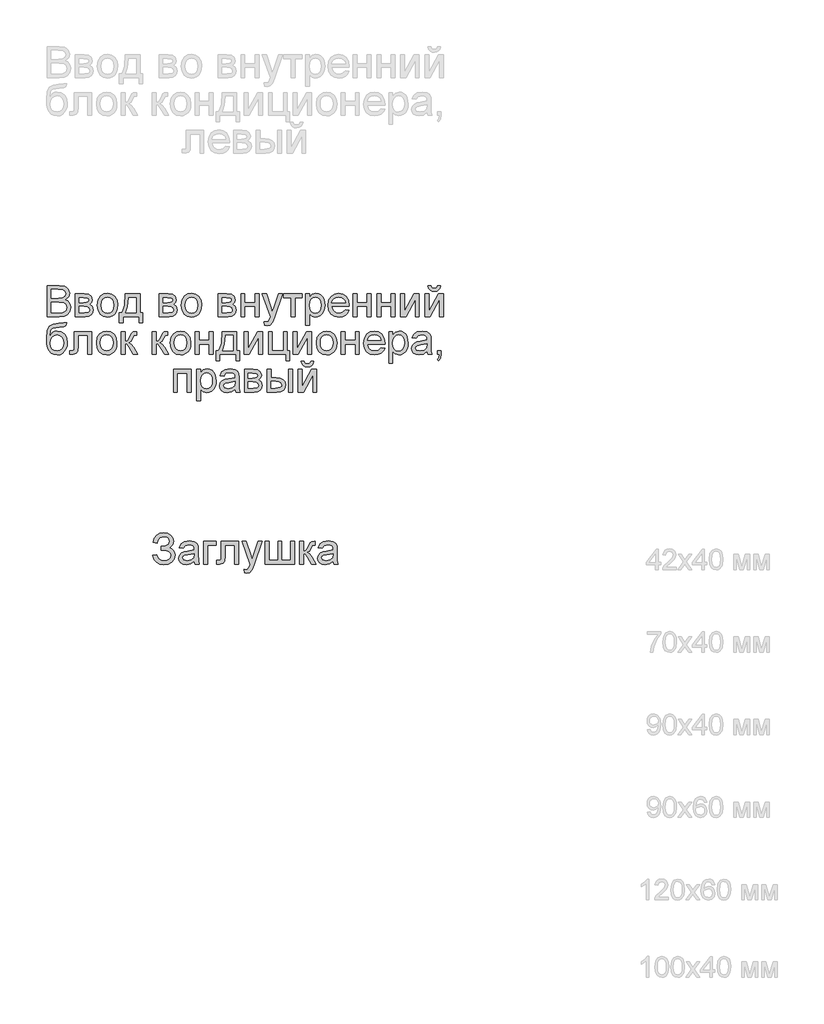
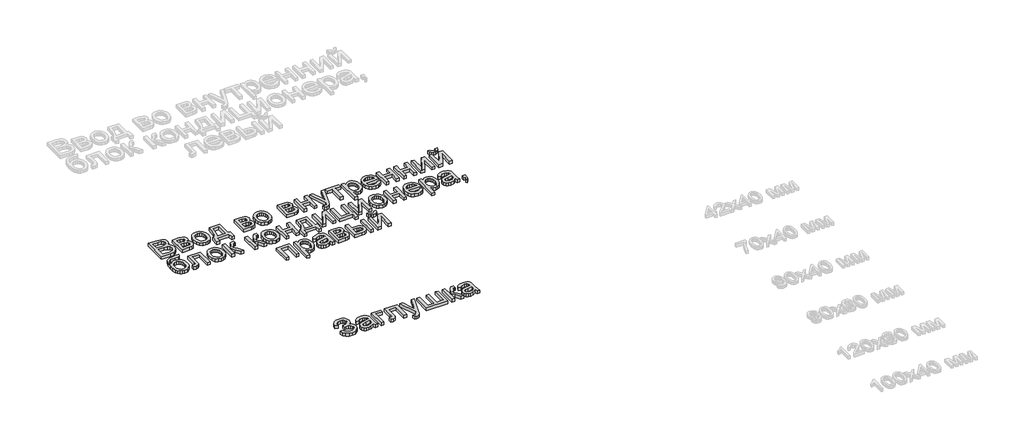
# One storey, part 14 of 21: 2 proxies.
"""IFC4 building model written with IfcOpenShell, lengths in millimetres."""

from ifc_helpers import new_model, si_unit, origin, origin_with_axes, place, context, project, spatial, polyline, outline, extrude, element, save

model = new_model("IFC4")

# Units and contexts
model_context = context("Model", 3, world=origin())
ifc_project = project(units=[si_unit("LENGTHUNIT", "METRE", prefix="MILLI")], contexts=[model_context])

# Site, building, storey
site = spatial("IfcSite", under=ifc_project)
building = spatial("IfcBuilding", under=site)
storey = spatial("IfcBuildingStorey", under=building, Name="Этаж 01", Elevation=0.0)

# Proxies
placement = place(None, origin())
element("IfcBuildingElementProxy", 1, Name="150 мм Arial", ObjectType="150 мм Arial", at=placement, inside=storey, context=model_context, shape_type="SweptSolid", body=[
    extrude(outline(polyline([(28914.2604069, -8843.2662232), (28914.2604069, -8692.581758), (28971.7603627, -8692.581758), (28999.9217294, -8697.014736), (29009.3854938, -8702.638732), (29016.5499956, -8710.644764), (29022.5648662, -8729.9217805), (29017.5064888, -8747.524934), (29002.2209919, -8760.8606563), (29012.8941683, -8766.4340685), (29020.7806386, -8774.9137485), (29025.6504765, -8785.7386762), (29027.2737558, -8798.3478316), (29022.8407777, -8818.5997354), (29011.8595002, -8833.0207096), (28995.4703573, -8840.6726551), (28971.3189043, -8843.2662232), (28914.2604069, -8843.2662232)]), holes=[polyline([(28933.095965, -8753.797322), (28967.4929316, -8753.797322), (28987.5792885, -8752.1786412), (28999.664212, -8745.2072774), (29003.7293081, -8732.9384129), (28999.9401235, -8720.6511542), (28989.0876047, -8713.3854848), (28964.8809694, -8711.4173161), (28933.095965, -8711.4173161), (28933.095965, -8753.797322)]), polyline([(28933.095965, -8824.4306651), (28971.7235745, -8824.4306651), (28985.7030903, -8823.6949011), (28997.5304965, -8819.5930168), (29005.366383, -8811.2237014), (29008.4381976, -8798.5317726), (29004.8329541, -8783.8900692), (28993.1527007, -8775.1528718), (28969.8841645, -8772.6328801), (28933.095965, -8772.6328801), (28933.095965, -8824.4306651)])]), origin_with_axes(), (0.0, 0.0, 1.0), 20.0),
    extrude(outline(polyline([(29050.8182035, -8732.6073191), (29092.3152925, -8732.6073191), (29115.0687939, -8735.1273107), (29127.8710874, -8744.3611488), (29133.2237704, -8760.4559861), (29129.9864088, -8773.534191), (29120.237536, -8782.8599996), (29132.8926766, -8793.068725), (29137.9326599, -8810.8190312), (29134.7412836, -8825.1756261), (29127.1537175, -8835.2831839), (29115.1423703, -8841.2704634), (29098.679651, -8843.2662232), (29050.8182035, -8843.2662232), (29050.8182035, -8732.6073191)]), holes=[polyline([(29069.6537616, -8774.9873249), (29088.2685906, -8774.9873249), (29103.6276639, -8774.0308317), (29111.0956684, -8770.204859), (29114.3882122, -8763.2886775), (29112.9442754, -8757.66928), (29108.6124649, -8754.0548394), (29088.8572018, -8751.4428772), (29069.6537616, -8751.4428772), (29069.6537616, -8774.9873249)]), polyline([(29069.6537616, -8824.4306651), (29092.7567509, -8824.4306651), (29113.247778, -8821.0277566), (29117.487618, -8816.3878449), (29119.0971018, -8809.2739269), (29115.8781343, -8800.2056357), (29107.4904248, -8794.926529), (29090.9173409, -8793.8228831), (29069.6537616, -8793.8228831), (29069.6537616, -8824.4306651)])]), origin_with_axes(), (0.0, 0.0, 1.0), 20.0),
    extrude(outline(polyline([(29156.7682181, -8787.9367711), (29160.8425112, -8761.2561294), (29173.0653905, -8742.5033447), (29188.1669464, -8733.3154919), (29206.2483464, -8730.2528743), (29226.0357992, -8733.982278), (29241.8409295, -8745.1704892), (29252.2014062, -8762.934591), (29255.6548984, -8786.3916668), (29254.1281881, -8805.420363), (29249.5480573, -8819.9057165), (29242.0478631, -8830.7536369), (29231.7609628, -8838.8700334), (29219.542682, -8843.9330093), (29206.2483464, -8845.620668), (29186.2217703, -8841.9050598), (29170.4350342, -8830.7582354), (29160.1849221, -8812.621653), (29156.7682181, -8787.9367711)]), holes=[polyline([(29175.6037762, -8787.8999829), (29177.7834771, -8804.9467149), (29184.3225795, -8817.0914193), (29194.1634229, -8824.3616872), (29206.2483464, -8826.7851098), (29218.2780877, -8824.3478916), (29228.1005369, -8817.036237), (29234.6396394, -8804.7305842), (29236.8193402, -8787.3113717), (29234.6258438, -8770.7612805), (29228.0453546, -8758.782123), (29218.2091098, -8751.5118551), (29206.2483464, -8749.0884324), (29194.1634229, -8751.502658), (29184.3225795, -8758.7453348), (29177.7834771, -8770.862448), (29175.6037762, -8787.8999829)])]), origin_with_axes(), (0.0, 0.0, 1.0), 20.0),
    extrude(outline(polyline([(29293.3260147, -8732.6073191), (29363.9593578, -8732.6073191), (29363.9593578, -8824.4306651), (29378.0860264, -8824.4306651), (29378.0860264, -8873.8740052), (29359.2504682, -8873.8740052), (29359.2504682, -8843.2662232), (29281.5537908, -8843.2662232), (29281.5537908, -8873.8740052), (29262.7182327, -8873.8740052), (29262.7182327, -8824.4306651), (29274.4904565, -8824.4306651), (29283.0483114, -8808.9658257), (29289.0401894, -8788.5069882), (29293.3260147, -8732.6073191)]), holes=[polyline([(29309.8071281, -8751.4428772), (29305.3925441, -8794.356312), (29295.6804595, -8824.4306651), (29345.1237996, -8824.4306651), (29345.1237996, -8751.4428772), (29309.8071281, -8751.4428772)])]), origin_with_axes(), (0.0, 0.0, 1.0), 20.0),
    extrude(outline(polyline([(29458.1371485, -8732.6073191), (29499.6342376, -8732.6073191), (29522.387739, -8735.1273107), (29535.1900324, -8744.3611488), (29540.5427154, -8760.4559861), (29537.3053539, -8773.534191), (29527.556481, -8782.8599996), (29540.2116217, -8793.068725), (29545.251605, -8810.8190312), (29542.0602287, -8825.1756261), (29534.4726625, -8835.2831839), (29522.4613154, -8841.2704634), (29505.9985961, -8843.2662232), (29458.1371485, -8843.2662232), (29458.1371485, -8732.6073191)]), holes=[polyline([(29476.9727067, -8774.9873249), (29495.5875356, -8774.9873249), (29510.9466089, -8774.0308317), (29518.4146134, -8770.204859), (29521.7071573, -8763.2886775), (29520.2632205, -8757.66928), (29515.93141, -8754.0548394), (29496.1761468, -8751.4428772), (29476.9727067, -8751.4428772), (29476.9727067, -8774.9873249)]), polyline([(29476.9727067, -8824.4306651), (29500.075696, -8824.4306651), (29520.5667231, -8821.0277566), (29524.8065631, -8816.3878449), (29526.4160468, -8809.2739269), (29523.1970794, -8800.2056357), (29514.8093699, -8794.926529), (29498.236286, -8793.8228831), (29476.9727067, -8793.8228831), (29476.9727067, -8824.4306651)])]), origin_with_axes(), (0.0, 0.0, 1.0), 20.0),
    extrude(outline(polyline([(29564.0871631, -8787.9367711), (29568.1614562, -8761.2561294), (29580.3843355, -8742.5033447), (29595.4858914, -8733.3154919), (29613.5672915, -8730.2528743), (29633.3547443, -8733.982278), (29649.1598745, -8745.1704892), (29659.5203512, -8762.934591), (29662.9738434, -8786.3916668), (29661.4471332, -8805.420363), (29656.8670023, -8819.9057165), (29649.3668081, -8830.7536369), (29639.0799079, -8838.8700334), (29626.8616271, -8843.9330093), (29613.5672915, -8845.620668), (29593.5407154, -8841.9050598), (29577.7539793, -8830.7582354), (29567.5038672, -8812.621653), (29564.0871631, -8787.9367711)]), holes=[polyline([(29582.9227213, -8787.8999829), (29585.1024221, -8804.9467149), (29591.6415246, -8817.0914193), (29601.4823679, -8824.3616872), (29613.5672915, -8826.7851098), (29625.5970327, -8824.3478916), (29635.419482, -8817.036237), (29641.9585845, -8804.7305842), (29644.1382853, -8787.3113717), (29641.9447889, -8770.7612805), (29635.3642997, -8758.782123), (29625.5280549, -8751.5118551), (29613.5672915, -8749.0884324), (29601.4823679, -8751.502658), (29591.6415246, -8758.7453348), (29585.1024221, -8770.862448), (29582.9227213, -8787.8999829)])]), origin_with_axes(), (0.0, 0.0, 1.0), 20.0),
    extrude(outline(polyline([(29743.0249656, -8732.6073191), (29784.5220546, -8732.6073191), (29807.275556, -8735.1273107), (29820.0778495, -8744.3611488), (29825.4305325, -8760.4559861), (29822.193171, -8773.534191), (29812.4442981, -8782.8599996), (29825.0994387, -8793.068725), (29830.139422, -8810.8190312), (29826.9480457, -8825.1756261), (29819.3604796, -8835.2831839), (29807.3491324, -8841.2704634), (29790.8864132, -8843.2662232), (29743.0249656, -8843.2662232), (29743.0249656, -8732.6073191)]), holes=[polyline([(29761.8605237, -8774.9873249), (29780.4753527, -8774.9873249), (29795.834426, -8774.0308317), (29803.3024305, -8770.204859), (29806.5949744, -8763.2886775), (29805.1510375, -8757.66928), (29800.819227, -8754.0548394), (29781.0639639, -8751.4428772), (29761.8605237, -8751.4428772), (29761.8605237, -8774.9873249)]), polyline([(29761.8605237, -8824.4306651), (29784.963513, -8824.4306651), (29805.4545402, -8821.0277566), (29809.6943802, -8816.3878449), (29811.3038639, -8809.2739269), (29808.0848964, -8800.2056357), (29799.6971869, -8794.926529), (29783.1241031, -8793.8228831), (29761.8605237, -8793.8228831), (29761.8605237, -8824.4306651)])]), origin_with_axes(), (0.0, 0.0, 1.0), 20.0),
    extrude(outline(polyline([(29853.6838697, -8732.6073191), (29872.5194279, -8732.6073191), (29872.5194279, -8774.9873249), (29921.962768, -8774.9873249), (29921.962768, -8732.6073191), (29940.7983262, -8732.6073191), (29940.7983262, -8843.2662232), (29921.962768, -8843.2662232), (29921.962768, -8793.8228831), (29872.5194279, -8793.8228831), (29872.5194279, -8843.2662232), (29853.6838697, -8843.2662232), (29853.6838697, -8732.6073191)])), origin_with_axes(), (0.0, 0.0, 1.0), 20.0),
    extrude(outline(polyline([(29969.0516634, -8885.6462291), (29966.6972187, -8867.5096467), (29976.2621505, -8869.1651157), (29985.201683, -8867.0865824), (29990.6831247, -8861.292441), (29995.8334727, -8847.4232898), (29997.3050007, -8842.861553), (29957.2794396, -8732.6073191), (29977.1450673, -8732.6073191), (29998.3718584, -8794.0436123), (30005.7662865, -8818.6181295), (30013.1607146, -8796.9130918), (30034.976117, -8732.6073191), (30054.6945919, -8732.6073191), (30016.177347, -8845.9149736), (30006.1709567, -8870.4894909), (29995.2448615, -8883.7700309), (29980.5663699, -8888.0006738), (29969.0516634, -8885.6462291)])), origin_with_axes(), (0.0, 0.0, 1.0), 20.0),
    extrude(outline(polyline([(30060.8750094, -8732.6073191), (30150.3439107, -8732.6073191), (30150.3439107, -8751.4428772), (30115.0272391, -8751.4428772), (30115.0272391, -8843.2662232), (30096.191681, -8843.2662232), (30096.191681, -8751.4428772), (30060.8750094, -8751.4428772), (30060.8750094, -8732.6073191)])), origin_with_axes(), (0.0, 0.0, 1.0), 20.0),
    extrude(outline(polyline([(30166.825024, -8885.6462291), (30166.825024, -8732.6073191), (30185.6605822, -8732.6073191), (30185.6605822, -8751.0749952), (30198.6836048, -8735.4584045), (30216.2683642, -8730.2528743), (30229.0062783, -8732.0738902), (30240.1439057, -8737.5369378), (30249.2121969, -8746.3109234), (30255.7421023, -8758.0647531), (30261.0028148, -8787.0906426), (30259.5174912, -8803.1992754), (30255.0615206, -8817.6064541), (30247.7774571, -8829.581013), (30237.807855, -8838.3917868), (30226.1965795, -8843.8134477), (30213.9874958, -8845.620668), (30197.5983529, -8840.7830197), (30185.6605822, -8828.5509434), (30185.6605822, -8885.6462291), (30166.825024, -8885.6462291)]), holes=[polyline([(30185.6605822, -8788.8196879), (30187.6977287, -8805.7054715), (30193.8091684, -8817.5144836), (30202.8268758, -8824.4674533), (30213.5828256, -8826.7851098), (30224.5135194, -8824.3846798), (30233.7611531, -8817.1833898), (30240.0657307, -8804.9421164), (30242.1672566, -8787.4217363), (30240.1163145, -8770.6279233), (30233.9634882, -8758.6533643), (30224.9595763, -8751.4796654), (30214.3553778, -8749.0884324), (30203.7097926, -8751.6314167), (30194.3609914, -8759.2603696), (30187.8356845, -8771.7361678), (30185.6605822, -8788.8196879)])]), origin_with_axes(), (0.0, 0.0, 1.0), 20.0),
    extrude(outline(polyline([(30359.6687659, -8810.3039964), (30378.1364421, -8812.6584412), (30371.4823765, -8826.5735777), (30360.8643824, -8836.9754411), (30346.5215831, -8843.4593613), (30328.6931019, -8845.620668), (30306.5925911, -8841.8912643), (30289.5872458, -8830.7030531), (30278.743924, -8812.7826014), (30275.1294834, -8788.8564761), (30278.7807122, -8764.125609), (30289.7343986, -8745.6303417), (30306.5098176, -8734.0972411), (30327.6262441, -8730.2528743), (30348.0850816, -8734.0880441), (30364.4328377, -8745.5935535), (30375.1519994, -8764.0520326), (30378.7250533, -8788.7461115), (30378.6146887, -8793.8228831), (30293.9650416, -8793.8228831), (30297.2253958, -8807.9219605), (30304.7991663, -8818.2870357), (30315.7298601, -8824.6605913), (30329.0609839, -8826.7851098), (30347.5286601, -8822.8487725), (30359.6687659, -8810.3039964)]), holes=[polyline([(30293.9650416, -8774.9873249), (30359.8894951, -8774.9873249), (30357.3419123, -8765.0361169), (30352.3479142, -8757.9176003), (30341.3666366, -8751.2957244), (30327.5526677, -8749.0884324), (30314.8561404, -8750.8496675), (30304.3577079, -8756.1333727), (30297.0598489, -8764.3693308), (30293.9650416, -8774.9873249)])]), origin_with_axes(), (0.0, 0.0, 1.0), 20.0),
    extrude(outline(polyline([(30397.5606114, -8732.6073191), (30416.3961696, -8732.6073191), (30416.3961696, -8774.9873249), (30465.8395097, -8774.9873249), (30465.8395097, -8732.6073191), (30484.6750679, -8732.6073191), (30484.6750679, -8843.2662232), (30465.8395097, -8843.2662232), (30465.8395097, -8793.8228831), (30416.3961696, -8793.8228831), (30416.3961696, -8843.2662232), (30397.5606114, -8843.2662232), (30397.5606114, -8732.6073191)])), origin_with_axes(), (0.0, 0.0, 1.0), 20.0),
    extrude(outline(polyline([(30512.9284051, -8732.6073191), (30531.7639633, -8732.6073191), (30531.7639633, -8774.9873249), (30581.2073034, -8774.9873249), (30581.2073034, -8732.6073191), (30600.0428616, -8732.6073191), (30600.0428616, -8843.2662232), (30581.2073034, -8843.2662232), (30581.2073034, -8793.8228831), (30531.7639633, -8793.8228831), (30531.7639633, -8843.2662232), (30512.9284051, -8843.2662232), (30512.9284051, -8732.6073191)])), origin_with_axes(), (0.0, 0.0, 1.0), 20.0),
    extrude(outline(polyline([(30628.2961988, -8732.6073191), (30647.1317569, -8732.6073191), (30647.1317569, -8816.9994488), (30693.4113119, -8732.6073191), (30717.7651, -8732.6073191), (30717.7651, -8843.2662232), (30698.9295419, -8843.2662232), (30698.9295419, -8759.3891283), (30652.9442925, -8843.2662232), (30628.2961988, -8843.2662232), (30628.2961988, -8732.6073191)])), origin_with_axes(), (0.0, 0.0, 1.0), 20.0),
    extrude(outline(polyline([(30746.0184372, -8732.6073191), (30764.8539954, -8732.6073191), (30764.8539954, -8816.9994488), (30811.1335504, -8732.6073191), (30835.4873385, -8732.6073191), (30835.4873385, -8843.2662232), (30816.6517803, -8843.2662232), (30816.6517803, -8759.3891283), (30770.6665309, -8843.2662232), (30746.0184372, -8843.2662232), (30746.0184372, -8732.6073191)])), origin_with_axes(), (0.0, 0.0, 1.0), 20.0),
    extrude(outline(polyline([(30807.2340012, -8692.581758), (30821.3606699, -8692.581758), (30818.3210449, -8704.6436889), (30812.2188023, -8713.5326376), (30803.3298536, -8719.0094808), (30791.9301102, -8720.8350952), (30779.5600782, -8719.0232764), (30769.9675551, -8713.5878199), (30763.4100586, -8704.7126668), (30760.1451059, -8692.581758), (30774.2717745, -8692.581758), (30779.5692752, -8703.1951536), (30790.2378531, -8706.7084266), (30801.9365005, -8703.3055181), (30807.2340012, -8692.581758)])), origin_with_axes(), (0.0, 0.0, 1.0), 20.0),
    extrude(outline(polyline([(28993.1343066, -8873.18954), (29009.61542, -8873.18954), (29004.7593777, -8887.8864257), (28995.1576576, -8893.2023205), (28972.0914565, -8894.3795429), (28941.023822, -8898.7205505), (28933.8961083, -8904.3675391), (28929.1044454, -8912.6264899), (28925.0761375, -8937.2377953), (28941.391704, -8919.2115776), (28951.3107223, -8914.7142202), (28962.41616, -8913.2151011), (28982.0150733, -8917.0272782), (28997.9167726, -8928.4638098), (29008.4565917, -8946.4026556), (29011.9698648, -8969.7217755), (29010.2270238, -8987.702008), (29004.998501, -9002.1321793), (28988.4622053, -9021.6851073), (28977.168228, -9026.8584479), (28962.41616, -9028.5828948), (28945.4154133, -9026.3618072), (28932.6729007, -9019.6985446), (28923.2965084, -9009.5725927), (28916.3941224, -8996.9634373), (28912.1450854, -8977.9761278), (28910.7287397, -8948.7157136), (28914.3017936, -8912.5759061), (28925.0209552, -8890.5351761), (28943.1529391, -8879.2917826), (28968.9644595, -8875.5439848), (28989.9337333, -8875.1209205), (28993.1343066, -8873.18954)]), holes=[polyline([(28993.1343066, -8969.1331643), (28991.0925615, -8954.3121185), (28984.9673263, -8942.4433256), (28975.126483, -8934.6488258), (28961.9379134, -8932.0506592), (28948.1883239, -8934.7959786), (28937.9887955, -8943.0319368), (28931.6704223, -8955.8572228), (28929.5642979, -8972.3705259), (28931.8911515, -8988.3779912), (28938.8717123, -9000.1272224), (28949.2643787, -9007.3423081), (28961.8275488, -9009.7473366), (28974.4550983, -9006.965229), (28984.4522915, -8998.6189062), (28990.9638029, -8985.6832556), (28993.1343066, -8969.1331643)])]), origin_with_axes(), (0.0, 0.0, 1.0), 20.0),
    extrude(outline(polyline([(29044.9320915, -8915.5695458), (29129.6921032, -8915.5695458), (29129.6921032, -9026.1180854), (29110.8565451, -9026.1180854), (29110.8565451, -8934.405104), (29063.7676497, -8934.405104), (29063.7676497, -8987.1961703), (29062.4984568, -9011.5499584), (29055.527093, -9021.8322601), (29039.0459796, -9026.22845), (29023.7420886, -9025.2719568), (29023.7420886, -9007.3928918), (29032.1665863, -9007.3928918), (29040.6830545, -9006.2340635), (29044.085963, -9002.5552436), (29044.9320915, -8986.1293125), (29044.9320915, -8915.5695458)])), origin_with_axes(), (0.0, 0.0, 1.0), 20.0),
    extrude(outline(polyline([(29153.2365509, -8970.8989979), (29157.310844, -8944.2183562), (29169.5337233, -8925.4655715), (29184.6352792, -8916.2777187), (29202.7166793, -8913.2151011), (29222.5041321, -8916.9445048), (29238.3092623, -8928.132716), (29248.669739, -8945.8968178), (29252.1232312, -8969.3538935), (29250.5965209, -8988.3825897), (29246.0163901, -9002.8679433), (29238.5161959, -9013.7158636), (29228.2292956, -9021.8322601), (29216.0110149, -9026.8952361), (29202.7166793, -9028.5828948), (29182.6901032, -9024.8672866), (29166.903367, -9013.7204621), (29156.653255, -8995.5838798), (29153.2365509, -8970.8989979)]), holes=[polyline([(29172.0721091, -8970.8622097), (29174.2518099, -8987.9089417), (29180.7909124, -9000.053646), (29190.6317557, -9007.323914), (29202.7166793, -9009.7473366), (29214.7464205, -9007.3101184), (29224.5688698, -8999.9984637), (29231.1079723, -8987.692811), (29233.2876731, -8970.2735985), (29231.0941767, -8953.7235073), (29224.5136875, -8941.7443498), (29214.6774426, -8934.4740819), (29202.7166793, -8932.0506592), (29190.6317557, -8934.4648848), (29180.7909124, -8941.7075616), (29174.2518099, -8953.8246748), (29172.0721091, -8970.8622097)])]), origin_with_axes(), (0.0, 0.0, 1.0), 20.0),
    extrude(outline(polyline([(29273.3132341, -8915.5695458), (29292.1487923, -8915.5695458), (29292.1487923, -8962.6584412), (29304.7671447, -8959.2739269), (29315.1046288, -8939.5554519), (29323.6946734, -8922.5409096), (29331.2730425, -8917.0042856), (29345.0502232, -8915.5695458), (29348.6554668, -8915.5695458), (29348.6554668, -8934.5154686), (29343.5786952, -8934.405104), (29334.3816453, -8936.3916668), (29327.9069222, -8948.78929), (29320.310159, -8962.1985887), (29309.6599753, -8968.7652823), (29321.5425637, -8976.0953311), (29333.204423, -8991.5371778), (29353.3643563, -9026.22845), (29331.9536242, -9026.22845), (29312.198361, -8992.2729418), (29302.2655472, -8977.9071499), (29292.1487923, -8974.4306651), (29292.1487923, -9026.22845), (29273.3132341, -9026.22845), (29273.3132341, -8915.5695458)])), origin_with_axes(), (0.0, 0.0, 1.0), 20.0),
    extrude(outline(polyline([(29423.9976994, -8915.5695458), (29442.8332575, -8915.5695458), (29442.8332575, -8962.6584412), (29455.45161, -8959.2739269), (29465.789094, -8939.5554519), (29474.3791386, -8922.5409096), (29481.9575077, -8917.0042856), (29495.7346884, -8915.5695458), (29499.339932, -8915.5695458), (29499.339932, -8934.5154686), (29494.2631605, -8934.405104), (29485.0661106, -8936.3916668), (29478.5913875, -8948.78929), (29470.9946243, -8962.1985887), (29460.3444405, -8968.7652823), (29472.2270289, -8976.0953311), (29483.8888882, -8991.5371778), (29504.0488215, -9026.22845), (29482.6380894, -9026.22845), (29462.8828263, -8992.2729418), (29452.9500124, -8977.9071499), (29442.8332575, -8974.4306651), (29442.8332575, -9026.22845), (29423.9976994, -9026.22845), (29423.9976994, -8915.5695458)])), origin_with_axes(), (0.0, 0.0, 1.0), 20.0),
    extrude(outline(polyline([(29511.1121558, -8970.8989979), (29515.1864489, -8944.2183562), (29527.4093282, -8925.4655715), (29542.5108841, -8916.2777187), (29560.5922842, -8913.2151011), (29580.379737, -8916.9445048), (29596.1848672, -8928.132716), (29606.5453439, -8945.8968178), (29609.9988361, -8969.3538935), (29608.4721259, -8988.3825897), (29603.891995, -9002.8679433), (29596.3918008, -9013.7158636), (29586.1049005, -9021.8322601), (29573.8866198, -9026.8952361), (29560.5922842, -9028.5828948), (29540.5657081, -9024.8672866), (29524.778972, -9013.7204621), (29514.5288599, -8995.5838798), (29511.1121558, -8970.8989979)]), holes=[polyline([(29529.947714, -8970.8622097), (29532.1274148, -8987.9089417), (29538.6665173, -9000.053646), (29548.5073606, -9007.323914), (29560.5922842, -9009.7473366), (29572.6220254, -9007.3101184), (29582.4444747, -8999.9984637), (29588.9835772, -8987.692811), (29591.163278, -8970.2735985), (29588.9697816, -8953.7235073), (29582.3892924, -8941.7443498), (29572.5530476, -8934.4740819), (29560.5922842, -8932.0506592), (29548.5073606, -8934.4648848), (29538.6665173, -8941.7075616), (29532.1274148, -8953.8246748), (29529.947714, -8970.8622097)])]), origin_with_axes(), (0.0, 0.0, 1.0), 20.0),
    extrude(outline(polyline([(29631.1888391, -8915.5695458), (29650.0243972, -8915.5695458), (29650.0243972, -8957.9495517), (29699.4677374, -8957.9495517), (29699.4677374, -8915.5695458), (29718.3032955, -8915.5695458), (29718.3032955, -9026.22845), (29699.4677374, -9026.22845), (29699.4677374, -8976.7851098), (29650.0243972, -8976.7851098), (29650.0243972, -9026.22845), (29631.1888391, -9026.22845), (29631.1888391, -8915.5695458)])), origin_with_axes(), (0.0, 0.0, 1.0), 20.0),
    extrude(outline(polyline([(29763.0377461, -8915.5695458), (29833.6710892, -8915.5695458), (29833.6710892, -9007.3928918), (29847.7977578, -9007.3928918), (29847.7977578, -9056.836232), (29828.9621997, -9056.836232), (29828.9621997, -9026.22845), (29751.2655223, -9026.22845), (29751.2655223, -9056.836232), (29732.4299641, -9056.836232), (29732.4299641, -9007.3928918), (29744.202188, -9007.3928918), (29752.7600429, -8991.9280525), (29758.7519209, -8971.469215), (29763.0377461, -8915.5695458)]), holes=[polyline([(29779.5188595, -8934.405104), (29775.1042756, -8977.3185387), (29765.3921909, -9007.3928918), (29814.8355311, -9007.3928918), (29814.8355311, -8934.405104), (29779.5188595, -8934.405104)])]), origin_with_axes(), (0.0, 0.0, 1.0), 20.0),
    extrude(outline(polyline([(29868.9877607, -8915.5695458), (29887.8233189, -8915.5695458), (29887.8233189, -8999.9616755), (29934.1028739, -8915.5695458), (29958.456662, -8915.5695458), (29958.456662, -9026.22845), (29939.6211038, -9026.22845), (29939.6211038, -8942.3513551), (29893.6358544, -9026.22845), (29868.9877607, -9026.22845), (29868.9877607, -8915.5695458)])), origin_with_axes(), (0.0, 0.0, 1.0), 20.0),
    extrude(outline(polyline([(29986.7099992, -8915.5695458), (30005.5455573, -8915.5695458), (30005.5455573, -9007.3928918), (30059.697787, -9007.3928918), (30059.697787, -8915.5695458), (30078.5333452, -8915.5695458), (30078.5333452, -9007.3928918), (30090.305569, -9007.3928918), (30090.305569, -9056.836232), (30071.4700109, -9056.836232), (30071.4700109, -9026.22845), (29986.7099992, -9026.22845), (29986.7099992, -8915.5695458)])), origin_with_axes(), (0.0, 0.0, 1.0), 20.0),
    extrude(outline(polyline([(30106.7866824, -8915.5695458), (30125.6222406, -8915.5695458), (30125.6222406, -8999.9616755), (30171.9017956, -8915.5695458), (30196.2555836, -8915.5695458), (30196.2555836, -9026.22845), (30177.4200255, -9026.22845), (30177.4200255, -8942.3513551), (30131.4347761, -9026.22845), (30106.7866824, -9026.22845), (30106.7866824, -8915.5695458)])), origin_with_axes(), (0.0, 0.0, 1.0), 20.0),
    extrude(outline(polyline([(30219.8000313, -8970.8989979), (30223.8743244, -8944.2183562), (30236.0972037, -8925.4655715), (30251.1987596, -8916.2777187), (30269.2801597, -8913.2151011), (30289.0676125, -8916.9445048), (30304.8727427, -8928.132716), (30315.2332194, -8945.8968178), (30318.6867116, -8969.3538935), (30317.1600014, -8988.3825897), (30312.5798705, -9002.8679433), (30305.0796763, -9013.7158636), (30294.7927761, -9021.8322601), (30282.5744953, -9026.8952361), (30269.2801597, -9028.5828948), (30249.2535836, -9024.8672866), (30233.4668475, -9013.7204621), (30223.2167354, -8995.5838798), (30219.8000313, -8970.8989979)]), holes=[polyline([(30238.6355895, -8970.8622097), (30240.8152903, -8987.9089417), (30247.3543928, -9000.053646), (30257.1952362, -9007.323914), (30269.2801597, -9009.7473366), (30281.3099009, -9007.3101184), (30291.1323502, -8999.9984637), (30297.6714527, -8987.692811), (30299.8511535, -8970.2735985), (30297.6576571, -8953.7235073), (30291.0771679, -8941.7443498), (30281.2409231, -8934.4740819), (30269.2801597, -8932.0506592), (30257.1952362, -8934.4648848), (30247.3543928, -8941.7075616), (30240.8152903, -8953.8246748), (30238.6355895, -8970.8622097)])]), origin_with_axes(), (0.0, 0.0, 1.0), 20.0),
    extrude(outline(polyline([(30339.8767146, -8915.5695458), (30358.7122727, -8915.5695458), (30358.7122727, -8957.9495517), (30408.1556129, -8957.9495517), (30408.1556129, -8915.5695458), (30426.991171, -8915.5695458), (30426.991171, -9026.22845), (30408.1556129, -9026.22845), (30408.1556129, -8976.7851098), (30358.7122727, -8976.7851098), (30358.7122727, -9026.22845), (30339.8767146, -9026.22845), (30339.8767146, -8915.5695458)])), origin_with_axes(), (0.0, 0.0, 1.0), 20.0),
    extrude(outline(polyline([(30532.7204564, -8993.2662232), (30551.1881326, -8995.620668), (30544.534067, -9009.5358045), (30533.9160729, -9019.9376679), (30519.5732736, -9026.421588), (30501.7447924, -9028.5828948), (30479.6442816, -9024.853491), (30462.6389364, -9013.6652798), (30451.7956145, -8995.7448282), (30448.1811739, -8971.8187029), (30451.8324027, -8947.0878358), (30462.7860892, -8928.5925685), (30479.5615081, -8917.0594679), (30500.6779347, -8913.2151011), (30521.1367721, -8917.0502709), (30537.4845283, -8928.5557803), (30548.2036899, -8947.0142594), (30551.7767438, -8971.7083383), (30551.6663792, -8976.7851098), (30467.0167321, -8976.7851098), (30470.2770863, -8990.8841873), (30477.8508569, -9001.2492625), (30488.7815506, -9007.6228181), (30502.1126744, -9009.7473366), (30520.5803506, -9005.8109993), (30532.7204564, -8993.2662232)]), holes=[polyline([(30467.0167321, -8957.9495517), (30532.9411856, -8957.9495517), (30530.3936028, -8947.9983437), (30525.3996047, -8940.8798271), (30514.4183272, -8934.2579512), (30500.6043583, -8932.0506592), (30487.9078309, -8933.8118943), (30477.4093985, -8939.0955994), (30470.1115394, -8947.3315576), (30467.0167321, -8957.9495517)])]), origin_with_axes(), (0.0, 0.0, 1.0), 20.0),
    extrude(outline(polyline([(30570.6123019, -9068.6084558), (30570.6123019, -8915.5695458), (30589.4478601, -8915.5695458), (30589.4478601, -8934.037222), (30602.4708827, -8918.4206313), (30620.0556421, -8913.2151011), (30632.7935562, -8915.0361169), (30643.9311836, -8920.4991646), (30652.9994748, -8929.2731502), (30659.5293802, -8941.0269799), (30664.7900927, -8970.0528693), (30663.3047692, -8986.1615022), (30658.8487985, -9000.5686808), (30651.564735, -9012.5432398), (30641.5951329, -9021.3540135), (30629.9838574, -9026.7756745), (30617.7747737, -9028.5828948), (30601.3856308, -9023.7452465), (30589.4478601, -9011.5131702), (30589.4478601, -9068.6084558), (30570.6123019, -9068.6084558)]), holes=[polyline([(30589.4478601, -8971.7819147), (30591.4850066, -8988.6676983), (30597.5964463, -9000.4767103), (30606.6141537, -9007.42968), (30617.3701035, -9009.7473366), (30628.3007973, -9007.3469066), (30637.548431, -9000.1456165), (30643.8530087, -8987.9043431), (30645.9545346, -8970.3839631), (30643.9035924, -8953.59015), (30637.7507661, -8941.6155911), (30628.7468542, -8934.4418922), (30618.1426557, -8932.0506592), (30607.4970705, -8934.5936435), (30598.1482693, -8942.2225964), (30591.6229624, -8954.6983945), (30589.4478601, -8971.7819147)])]), origin_with_axes(), (0.0, 0.0, 1.0), 20.0),
    extrude(outline(polyline([(30756.6134387, -9012.1017814), (30738.3480976, -9024.8672866), (30718.1697702, -9028.5828948), (30702.4290193, -9026.3480116), (30690.8177439, -9019.6433623), (30683.6578405, -9009.4622281), (30681.2712061, -8996.7978904), (30684.8764496, -8981.8986696), (30694.349411, -8971.0829389), (30707.5379805, -8964.9025214), (30723.8351529, -8962.06983), (30756.5030741, -8955.5951069), (30756.6134387, -8951.4012522), (30755.3166547, -8942.9951486), (30751.4263026, -8937.4953127), (30742.7258934, -8933.4118226), (30730.6041816, -8932.0506592), (30711.5478943, -8935.6742969), (30702.461209, -8948.5317726), (30683.6256509, -8946.1773278), (30691.7742371, -8927.7832281), (30708.181774, -8917.0042856), (30733.0322028, -8913.2151011), (30755.8592806, -8916.5628272), (30768.7535445, -8924.9689308), (30774.5292919, -8937.7528301), (30775.4489969, -8954.2339435), (30775.4489969, -8977.6680266), (30776.40549, -9010.3911301), (30780.1578864, -9026.22845), (30761.3223282, -9026.22845), (30756.6134387, -9012.1017814)]), holes=[polyline([(30756.6134387, -8974.4306651), (30726.2263859, -8980.2064124), (30710.021184, -8983.2598329), (30702.6819382, -8988.2262399), (30700.1067642, -8995.4735152), (30705.7169647, -9005.6638465), (30722.179684, -9009.7473366), (30741.2359713, -9005.2407822), (30753.5232299, -8994.333081), (30756.5030741, -8979.764954), (30756.6134387, -8974.4306651)])]), origin_with_axes(), (0.0, 0.0, 1.0), 20.0),
    extrude(outline(polyline([(30806.0567789, -9026.22845), (30806.0567789, -9007.3928918), (30824.892337, -9007.3928918), (30824.892337, -9026.22845), (30821.5078227, -9045.4870724), (30810.7656684, -9056.836232), (30806.0567789, -9049.7728977), (30812.9729604, -9041.6427056), (30815.4377697, -9026.22845), (30806.0567789, -9026.22845)])), origin_with_axes(), (0.0, 0.0, 1.0), 20.0),
    extrude(outline(polyline([(29526.4160468, -9098.5317726), (29611.1760585, -9098.5317726), (29611.1760585, -9209.1906768), (29592.3405004, -9209.1906768), (29592.3405004, -9117.3673308), (29545.251605, -9117.3673308), (29545.251605, -9209.1906768), (29526.4160468, -9209.1906768), (29526.4160468, -9098.5317726)])), origin_with_axes(), (0.0, 0.0, 1.0), 20.0),
    extrude(outline(polyline([(29639.4293957, -9251.5706826), (29639.4293957, -9098.5317726), (29658.2649539, -9098.5317726), (29658.2649539, -9116.9994488), (29671.2879765, -9101.3828581), (29688.8727359, -9096.1773278), (29701.61065, -9097.9983437), (29712.7482774, -9103.4613913), (29721.8165686, -9112.2353769), (29728.346474, -9123.9892067), (29733.6071865, -9153.0150961), (29732.121863, -9169.123729), (29727.6658923, -9183.5309076), (29720.3818288, -9195.5054665), (29710.4122267, -9204.3162403), (29698.8009512, -9209.7379012), (29686.5918675, -9211.5451215), (29670.2027246, -9206.7074733), (29658.2649539, -9194.4753969), (29658.2649539, -9251.5706826), (29639.4293957, -9251.5706826)]), holes=[polyline([(29658.2649539, -9154.7441415), (29660.3021005, -9171.629925), (29666.4135401, -9183.4389371), (29675.4312475, -9190.3919068), (29686.1871973, -9192.7095634), (29697.1178911, -9190.3091333), (29706.3655248, -9183.1078433), (29712.6701025, -9170.8665699), (29714.7716284, -9153.3461899), (29712.7206862, -9136.5523768), (29706.5678599, -9124.5778179), (29697.563948, -9117.404119), (29686.9597495, -9115.012886), (29676.3141643, -9117.5558703), (29666.9653631, -9125.1848232), (29660.4400562, -9137.6606213), (29658.2649539, -9154.7441415)])]), origin_with_axes(), (0.0, 0.0, 1.0), 20.0),
    extrude(outline(polyline([(29825.4305325, -9195.0640081), (29807.1651915, -9207.8295134), (29786.986864, -9211.5451215), (29771.2461131, -9209.3102384), (29759.6348377, -9202.605589), (29752.4749343, -9192.4244548), (29750.0882999, -9179.7601171), (29753.6935435, -9164.8608963), (29763.1665048, -9154.0451657), (29776.3550744, -9147.8647482), (29792.6522467, -9145.0320568), (29825.3201679, -9138.5573337), (29825.4305325, -9134.3634789), (29824.1337485, -9125.9573753), (29820.2433964, -9120.4575395), (29811.5429872, -9116.3740494), (29799.4212755, -9115.012886), (29780.3649881, -9118.6365236), (29771.2783028, -9131.4939994), (29752.4427447, -9129.1395546), (29760.5913309, -9110.7454548), (29776.9988678, -9099.9665124), (29801.8492966, -9096.1773278), (29824.6763744, -9099.525054), (29837.5706384, -9107.9311576), (29843.3463857, -9120.7150569), (29844.2660907, -9137.1961703), (29844.2660907, -9160.6302534), (29845.2225839, -9193.3533569), (29848.9749802, -9209.1906768), (29830.139422, -9209.1906768), (29825.4305325, -9195.0640081)]), holes=[polyline([(29825.4305325, -9157.3928918), (29795.0434797, -9163.1686392), (29778.8382778, -9166.2220597), (29771.499032, -9171.1884666), (29768.9238581, -9178.435742), (29774.5340585, -9188.6260732), (29790.9967778, -9192.7095634), (29810.0530651, -9188.2030089), (29822.3403238, -9177.2953078), (29825.3201679, -9162.7271808), (29825.4305325, -9157.3928918)])]), origin_with_axes(), (0.0, 0.0, 1.0), 20.0),
    extrude(outline(polyline([(29870.1649831, -9098.5317726), (29911.6620722, -9098.5317726), (29934.4155736, -9101.0517643), (29947.217867, -9110.2856023), (29952.57055, -9126.3804396), (29949.3331885, -9139.4586446), (29939.5843156, -9148.7844531), (29952.2394562, -9158.9931785), (29957.2794396, -9176.7434848), (29954.0880633, -9191.1000796), (29946.5004971, -9201.2076375), (29934.48915, -9207.1949169), (29918.0264307, -9209.1906768), (29870.1649831, -9209.1906768), (29870.1649831, -9098.5317726)]), holes=[polyline([(29889.0005413, -9140.9117784), (29907.6153702, -9140.9117784), (29922.9744435, -9139.9552853), (29930.442448, -9136.1293125), (29933.7349919, -9129.213131), (29932.2910551, -9123.5937335), (29927.9592446, -9119.9792929), (29908.2039814, -9117.3673308), (29889.0005413, -9117.3673308), (29889.0005413, -9140.9117784)]), polyline([(29889.0005413, -9190.3551186), (29912.1035306, -9190.3551186), (29932.5945577, -9186.9522101), (29936.8343977, -9182.3122985), (29938.4438814, -9175.1983804), (29935.224914, -9166.1300892), (29926.8372045, -9160.8509826), (29910.2641206, -9159.7473366), (29889.0005413, -9159.7473366), (29889.0005413, -9190.3551186)])]), origin_with_axes(), (0.0, 0.0, 1.0), 20.0),
    extrude(outline(polyline([(30084.4194571, -9098.5317726), (30103.2550153, -9098.5317726), (30103.2550153, -9209.1906768), (30084.4194571, -9209.1906768), (30084.4194571, -9098.5317726)])), origin_with_axes(), (0.0, 0.0, 1.0), 20.0),
    extrude(outline(polyline([(29980.8238873, -9098.5317726), (29999.6594454, -9098.5317726), (29999.6594454, -9138.5573337), (30022.9463757, -9138.5573337), (30043.0741194, -9140.916377), (30057.9871358, -9147.9935069), (30067.2163753, -9159.2185062), (30070.2927885, -9174.021158), (30067.713016, -9187.4994346), (30059.9736985, -9198.8715868), (30046.5689983, -9206.6109043), (30026.9930777, -9209.1906768), (29980.8238873, -9209.1906768), (29980.8238873, -9098.5317726)]), holes=[polyline([(29999.6594454, -9190.3551186), (30019.0100384, -9190.3551186), (30043.9892258, -9186.4003871), (30049.5902292, -9181.3374112), (30051.4572303, -9174.0579462), (30045.9206063, -9162.4696634), (30037.0408547, -9158.6620847), (30021.4748477, -9157.3928918), (29999.6594454, -9157.3928918), (29999.6594454, -9190.3551186)])]), origin_with_axes(), (0.0, 0.0, 1.0), 20.0),
    extrude(outline(polyline([(30131.5083525, -9098.5317726), (30150.3439107, -9098.5317726), (30150.3439107, -9182.9239023), (30196.6234656, -9098.5317726), (30220.9772537, -9098.5317726), (30220.9772537, -9209.1906768), (30202.1416956, -9209.1906768), (30202.1416956, -9125.3135819), (30156.1564462, -9209.1906768), (30131.5083525, -9209.1906768), (30131.5083525, -9098.5317726)])), origin_with_axes(), (0.0, 0.0, 1.0), 20.0),
    extrude(outline(polyline([(30192.7239165, -9058.5062115), (30206.8505851, -9058.5062115), (30203.8109601, -9070.5681424), (30197.7087175, -9079.4570912), (30188.8197688, -9084.9339344), (30177.4200255, -9086.7595488), (30165.0499934, -9084.9477299), (30155.4574704, -9079.5122735), (30148.8999738, -9070.6371203), (30145.6350211, -9058.5062115), (30159.7616897, -9058.5062115), (30165.0591905, -9069.1196071), (30175.7277683, -9072.6328801), (30187.4264158, -9069.2299717), (30192.7239165, -9058.5062115)])), origin_with_axes(), (0.0, 0.0, 1.0), 20.0),
])
element("IfcBuildingElementProxy", 2, Name="150 мм Arial", ObjectType="150 мм Arial", at=placement, inside=storey, context=model_context, shape_type="SweptSolid", body=[
    extrude(outline(polyline([(29425.1749218, -10000.8862174), (29444.0104799, -9996.1773278), (29455.5803687, -10016.5763845), (29466.5110624, -10024.2329285), (29480.5043738, -10026.7851098), (29494.6816262, -10024.8675249), (29505.5019554, -10019.1147702), (29512.3583561, -10010.6488858), (29514.643823, -10000.5919118), (29512.1468239, -9990.0566911), (29504.6558268, -9981.9219005), (29492.8606103, -9976.7209688), (29477.4509533, -9974.9873249), (29467.5549276, -9974.9873249), (29467.5549276, -9956.1517668), (29488.8736892, -9954.6250565), (29501.915106, -9946.8259582), (29507.5804887, -9932.5705309), (29505.6950935, -9923.6999763), (29500.0389078, -9916.0710234), (29491.1637546, -9910.8149094), (29479.621457, -9909.0628714), (29460.3996228, -9914.4523426), (29449.3999511, -9928.7445581), (29446.3649247, -9942.0250981), (29427.5293665, -9937.3162086), (29433.3809895, -9916.7148169), (29443.9828888, -9901.9995371), (29459.3350643, -9893.1703692), (29479.437516, -9890.2273132), (29498.8294957, -9893.2853323), (29513.7425121, -9902.4593896), (29523.2476631, -9915.726134), (29526.4160468, -9931.0622147), (29521.4864281, -9949.7046348), (29506.6975719, -9963.6197713), (29517.1730117, -9968.4436239), (29525.7906474, -9976.5876116), (29531.5571977, -9987.3527585), (29533.4793811, -10000.0400888), (29529.7913641, -10017.877767), (29518.7273131, -10032.5424631), (29501.5748151, -10042.3511168), (29479.621457, -10045.620668), (29460.5191844, -10042.8247648), (29445.0773377, -10034.4370553), (29433.2959168, -10020.4575395), (29425.1749218, -10000.8862174)])), origin_with_axes(), (0.0, 0.0, 1.0), 20.0),
    extrude(outline(polyline([(29627.6571719, -10029.1395546), (29609.3918308, -10041.9050598), (29589.2135034, -10045.620668), (29573.4727525, -10043.3857849), (29561.8614771, -10036.6811355), (29554.7015737, -10026.5000013), (29552.3149393, -10013.8356636), (29555.9201828, -9998.9364428), (29565.3931442, -9988.1207121), (29578.5817137, -9981.9402946), (29594.8788861, -9979.1076033), (29627.5468073, -9972.6328801), (29627.6571719, -9968.4390254), (29626.3603879, -9960.0329218), (29622.4700358, -9954.533086), (29613.7696266, -9950.4495958), (29601.6479148, -9949.0884324), (29582.5916275, -9952.7120701), (29573.5049422, -9965.5695458), (29554.6693841, -9963.2151011), (29562.8179703, -9944.8210013), (29579.2255072, -9934.0420588), (29604.075936, -9930.2528743), (29626.9030138, -9933.6006005), (29639.7972777, -9942.006704), (29645.5730251, -9954.7906034), (29646.4927301, -9971.2717168), (29646.4927301, -9994.7057999), (29647.4492232, -10027.4289033), (29651.2016196, -10043.2662232), (29632.3660614, -10043.2662232), (29627.6571719, -10029.1395546)]), holes=[polyline([(29627.6571719, -9991.4684383), (29597.2701191, -9997.2441856), (29581.0649172, -10000.2976062), (29573.7256714, -10005.2640131), (29571.1504974, -10012.5112884), (29576.7606979, -10022.7016197), (29593.2234172, -10026.7851098), (29612.2797045, -10022.2785554), (29624.5669631, -10011.3708542), (29627.5468073, -9996.8027272), (29627.6571719, -9991.4684383)])]), origin_with_axes(), (0.0, 0.0, 1.0), 20.0),
    extrude(outline(polyline([(29672.3916225, -9932.6073191), (29733.6071865, -9932.6073191), (29733.6071865, -9951.4428772), (29691.2271807, -9951.4428772), (29691.2271807, -10043.2662232), (29672.3916225, -10043.2662232), (29672.3916225, -9932.6073191)])), origin_with_axes(), (0.0, 0.0, 1.0), 20.0),
    extrude(outline(polyline([(29757.1516342, -9932.6073191), (29841.9116459, -9932.6073191), (29841.9116459, -10043.1558586), (29823.0760877, -10043.1558586), (29823.0760877, -9951.4428772), (29775.9871924, -9951.4428772), (29775.9871924, -10004.2339435), (29774.7179995, -10028.5877316), (29767.7466357, -10038.8700334), (29751.2655223, -10043.2662232), (29735.9616313, -10042.30973), (29735.9616313, -10024.4306651), (29744.386129, -10024.4306651), (29752.9025972, -10023.2718368), (29756.3055056, -10019.5930168), (29757.1516342, -10003.1670857), (29757.1516342, -9932.6073191)])), origin_with_axes(), (0.0, 0.0, 1.0), 20.0),
    extrude(outline(polyline([(29870.1649831, -10085.6462291), (29867.8105384, -10067.5096467), (29877.3754702, -10069.1651157), (29886.3150027, -10067.0865824), (29891.7964444, -10061.292441), (29896.9467924, -10047.4232898), (29898.4183204, -10042.861553), (29858.3927593, -9932.6073191), (29878.258387, -9932.6073191), (29899.4851781, -9994.0436123), (29906.8796062, -10018.6181295), (29914.2740343, -9996.9130918), (29936.0894367, -9932.6073191), (29955.8079116, -9932.6073191), (29917.2906667, -10045.9149736), (29907.2842764, -10070.4894909), (29896.3581812, -10083.7700309), (29881.6796896, -10088.0006738), (29870.1649831, -10085.6462291)])), origin_with_axes(), (0.0, 0.0, 1.0), 20.0),
    extrude(outline(polyline([(29971.4061082, -9932.6073191), (29990.2416664, -9932.6073191), (29990.2416664, -10024.4306651), (30032.6216722, -10024.4306651), (30032.6216722, -9932.6073191), (30051.4572303, -9932.6073191), (30051.4572303, -10024.4306651), (30093.8372362, -10024.4306651), (30093.8372362, -9932.6073191), (30112.6727943, -9932.6073191), (30112.6727943, -10043.2662232), (29971.4061082, -10043.2662232), (29971.4061082, -9932.6073191)])), origin_with_axes(), (0.0, 0.0, 1.0), 20.0),
    extrude(outline(polyline([(30138.5716868, -9932.6073191), (30157.407245, -9932.6073191), (30157.407245, -9979.6962144), (30170.0255974, -9976.3117001), (30180.3630815, -9956.5932252), (30188.953126, -9939.5786829), (30196.5314951, -9934.0420588), (30210.3086759, -9932.6073191), (30213.9139194, -9932.6073191), (30213.9139194, -9951.5532418), (30208.8371479, -9951.4428772), (30199.640098, -9953.42944), (30193.1653749, -9965.8270632), (30185.5686117, -9979.236362), (30174.9184279, -9985.8030556), (30186.8010164, -9993.1331043), (30198.4628756, -10008.5749511), (30218.622809, -10043.2662232), (30197.2120768, -10043.2662232), (30177.4568137, -10009.3107151), (30167.5239998, -9994.9449231), (30157.407245, -9991.4684383), (30157.407245, -10043.2662232), (30138.5716868, -10043.2662232), (30138.5716868, -9932.6073191)])), origin_with_axes(), (0.0, 0.0, 1.0), 20.0),
    extrude(outline(polyline([(30301.0283759, -10029.1395546), (30282.7630348, -10041.9050598), (30262.5847074, -10045.620668), (30246.8439565, -10043.3857849), (30235.232681, -10036.6811355), (30228.0727777, -10026.5000013), (30225.6861433, -10013.8356636), (30229.2913868, -9998.9364428), (30238.7643482, -9988.1207121), (30251.9529177, -9981.9402946), (30268.2500901, -9979.1076033), (30300.9180113, -9972.6328801), (30301.0283759, -9968.4390254), (30299.7315918, -9960.0329218), (30295.8412397, -9954.533086), (30287.1408306, -9950.4495958), (30275.0191188, -9949.0884324), (30255.9628315, -9952.7120701), (30246.8761462, -9965.5695458), (30228.040588, -9963.2151011), (30236.1891742, -9944.8210013), (30252.5967112, -9934.0420588), (30277.44714, -9930.2528743), (30300.2742178, -9933.6006005), (30313.1684817, -9942.006704), (30318.944229, -9954.7906034), (30319.863934, -9971.2717168), (30319.863934, -9994.7057999), (30320.8204272, -10027.4289033), (30324.5728236, -10043.2662232), (30305.7372654, -10043.2662232), (30301.0283759, -10029.1395546)]), holes=[polyline([(30301.0283759, -9991.4684383), (30270.6413231, -9997.2441856), (30254.4361212, -10000.2976062), (30247.0968754, -10005.2640131), (30244.5217014, -10012.5112884), (30250.1319018, -10022.7016197), (30266.5946211, -10026.7851098), (30285.6509085, -10022.2785554), (30297.9381671, -10011.3708542), (30300.9180113, -9996.8027272), (30301.0283759, -9991.4684383)])]), origin_with_axes(), (0.0, 0.0, 1.0), 20.0),
])

save(model, "model.ifc")
